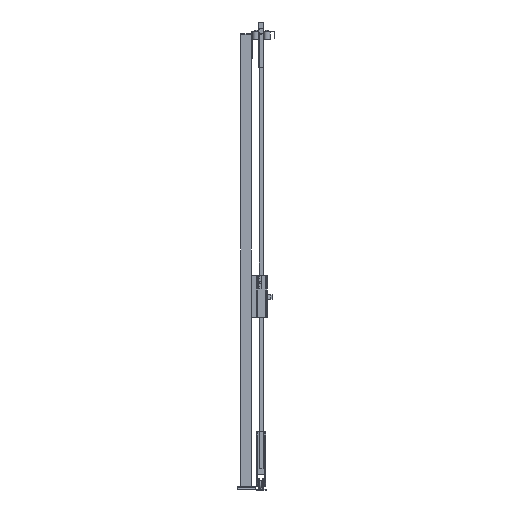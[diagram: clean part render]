
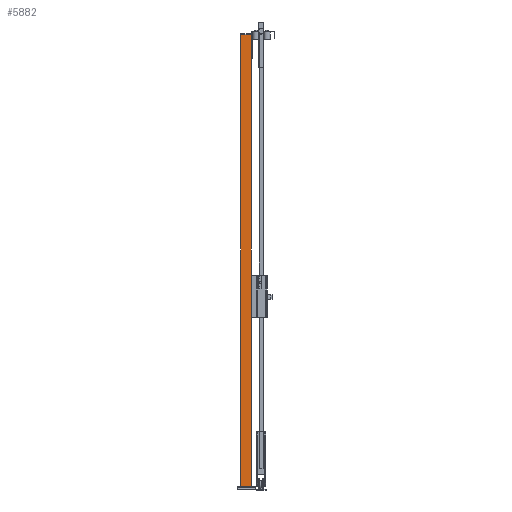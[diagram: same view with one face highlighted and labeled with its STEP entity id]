
A CAD part, left-side view. The second image highlights one B-rep face of the part: STEP entity #5882.
In plain terms, the highlighted planar face has unit normal (-1, 0, 0) as drawn and (0, 1, 0) by its records, which use the part's own axes.
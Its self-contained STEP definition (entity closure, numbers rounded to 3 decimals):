
#755=FACE_OUTER_BOUND('',#1058,.T.);
#1058=EDGE_LOOP('',(#4311,#4312,#4313,#4314));
#1498=LINE('',#8752,#2212);
#1504=LINE('',#8764,#2218);
#1507=LINE('',#8769,#2221);
#1508=LINE('',#8771,#2222);
#2212=VECTOR('',#6909,1.);
#2218=VECTOR('',#6917,1.);
#2221=VECTOR('',#6924,1.);
#2222=VECTOR('',#6927,1.);
#2826=VERTEX_POINT('',#8749);
#2827=VERTEX_POINT('',#8751);
#2829=VERTEX_POINT('',#8757);
#2832=VERTEX_POINT('',#8762);
#3420=EDGE_CURVE('',#2826,#2827,#1498,.T.);
#3426=EDGE_CURVE('',#2832,#2829,#1504,.T.);
#3429=EDGE_CURVE('',#2827,#2832,#1507,.T.);
#3430=EDGE_CURVE('',#2826,#2829,#1508,.T.);
#4311=ORIENTED_EDGE('',*,*,#3430,.T.);
#4312=ORIENTED_EDGE('',*,*,#3426,.F.);
#4313=ORIENTED_EDGE('',*,*,#3429,.F.);
#4314=ORIENTED_EDGE('',*,*,#3420,.F.);
#5629=PLANE('',#6234);
#5882=ADVANCED_FACE('',(#755),#5629,.F.);
#6234=AXIS2_PLACEMENT_3D('',#8770,#6925,#6926);
#6909=DIRECTION('',(-1.,0.,0.));
#6917=DIRECTION('',(1.,0.,0.));
#6924=DIRECTION('',(0.,0.,-1.));
#6925=DIRECTION('center_axis',(0.,-1.,0.));
#6926=DIRECTION('ref_axis',(0.,0.,-1.));
#6927=DIRECTION('',(0.,0.,-1.));
#8749=CARTESIAN_POINT('',(30.,30.,2520.));
#8751=CARTESIAN_POINT('',(-30.,30.,2520.));
#8752=CARTESIAN_POINT('',(0.,30.,2520.));
#8757=CARTESIAN_POINT('',(30.,30.,20.));
#8762=CARTESIAN_POINT('',(-30.,30.,20.));
#8764=CARTESIAN_POINT('',(0.,30.,20.));
#8769=CARTESIAN_POINT('',(-30.,30.,1270.));
#8770=CARTESIAN_POINT('Origin',(0.,30.,
1270.));
#8771=CARTESIAN_POINT('',(30.,30.,1270.));
